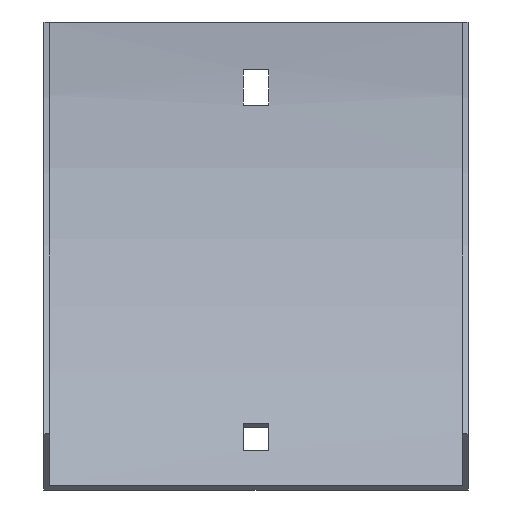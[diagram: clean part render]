
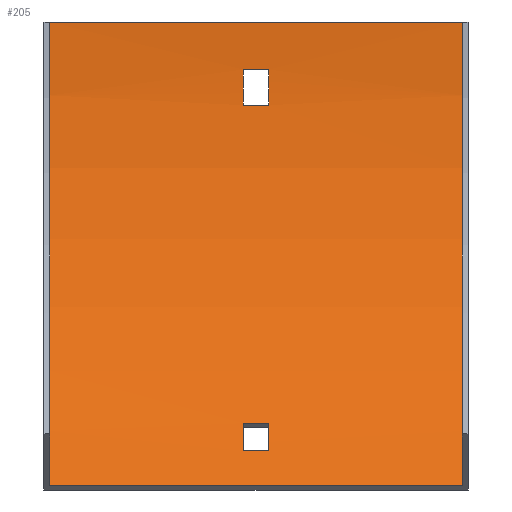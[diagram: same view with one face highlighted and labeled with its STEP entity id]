
A CAD part, front view. The second image highlights one B-rep face of the part: STEP entity #205.
In plain terms, the highlighted cylindrical face has radius 165.5 mm (diameter 331 mm), a partial arc.
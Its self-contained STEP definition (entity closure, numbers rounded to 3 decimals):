
#2 = CARTESIAN_POINT ( 'NONE',  ( 3.25, -1.936, -12. ) ) ;
#4 = DIRECTION ( 'NONE',  ( 0., 0., 1. ) ) ;
#6 = EDGE_CURVE ( 'NONE', #560, #449, #190, .T. ) ;
#12 = EDGE_CURVE ( 'NONE', #103, #221, #448, .T. ) ;
#16 = CARTESIAN_POINT ( 'NONE',  ( 52., -1.5, 0. ) ) ;
#20 = CARTESIAN_POINT ( 'NONE',  ( 53.5, -1.936, -12. ) ) ;
#22 = VERTEX_POINT ( 'NONE', #486 ) ;
#25 = EDGE_CURVE ( 'NONE', #47, #29, #301, .T. ) ;
#29 = VERTEX_POINT ( 'NONE', #400 ) ;
#34 = CARTESIAN_POINT ( 'NONE',  ( 53.5, -36.071, -101.231 ) ) ;
#44 = ORIENTED_EDGE ( 'NONE', *, *, #475, .T. ) ;
#47 = VERTEX_POINT ( 'NONE', #304 ) ;
#59 = CARTESIAN_POINT ( 'NONE',  ( -3.25, -2.838, -21. ) ) ;
#61 = ORIENTED_EDGE ( 'NONE', *, *, #25, .T. ) ;
#71 = LINE ( 'NONE', #498, #299 ) ;
#80 = CIRCLE ( 'NONE', #236, 165.5 ) ;
#95 = CYLINDRICAL_SURFACE ( 'NONE', #566, 165.5 ) ;
#96 = EDGE_CURVE ( 'NONE', #538, #421, #71, .T. ) ;
#103 = VERTEX_POINT ( 'NONE', #116 ) ;
#116 = CARTESIAN_POINT ( 'NONE',  ( 3.25, -36.071, -101.231 ) ) ;
#122 = EDGE_CURVE ( 'NONE', #131, #316, #296, .T. ) ;
#123 = DIRECTION ( 'NONE',  ( -1., 0., 0. ) ) ;
#124 = CARTESIAN_POINT ( 'NONE',  ( 3.25, -167., 0. ) ) ;
#128 = ORIENTED_EDGE ( 'NONE', *, *, #295, .T. ) ;
#131 = VERTEX_POINT ( 'NONE', #214 ) ;
#132 = FACE_OUTER_BOUND ( 'NONE', #480, .T. ) ;
#143 = DIRECTION ( 'NONE',  ( 0., 0., 1. ) ) ;
#151 = DIRECTION ( 'NONE',  ( 0., 0., -1. ) ) ;
#156 = VECTOR ( 'NONE', #161, 1000. ) ;
#161 = DIRECTION ( 'NONE',  ( 1., 0., 0. ) ) ;
#162 = DIRECTION ( 'NONE',  ( -1., 0., 0. ) ) ;
#164 = DIRECTION ( 'NONE',  ( -1., 0., 0. ) ) ;
#171 = ORIENTED_EDGE ( 'NONE', *, *, #96, .F. ) ;
#184 = CARTESIAN_POINT ( 'NONE',  ( 53.5, -167., 0. ) ) ;
#186 = ORIENTED_EDGE ( 'NONE', *, *, #12, .T. ) ;
#190 = CIRCLE ( 'NONE', #535, 165.5 ) ;
#204 = DIRECTION ( 'NONE',  ( -1., 0., 0. ) ) ;
#205 = ADVANCED_FACE ( 'NONE', ( #335, #132, #603 ), #95, .F. ) ;
#214 = CARTESIAN_POINT ( 'NONE',  ( 3.25, -2.838, -21. ) ) ;
#221 = VERTEX_POINT ( 'NONE', #429 ) ;
#227 = AXIS2_PLACEMENT_3D ( 'NONE', #482, #530, #298 ) ;
#236 = AXIS2_PLACEMENT_3D ( 'NONE', #571, #526, #151 ) ;
#242 = VECTOR ( 'NONE', #204, 1000. ) ;
#252 = CARTESIAN_POINT ( 'NONE',  ( -3.25, -167., 0. ) ) ;
#254 = LINE ( 'NONE', #20, #531 ) ;
#266 = DIRECTION ( 'NONE',  ( 0., 0., -1. ) ) ;
#267 = VECTOR ( 'NONE', #123, 1000. ) ;
#268 = EDGE_LOOP ( 'NONE', ( #416, #540, #453, #461 ) ) ;
#276 = AXIS2_PLACEMENT_3D ( 'NONE', #124, #309, #266 ) ;
#286 = AXIS2_PLACEMENT_3D ( 'NONE', #607, #336, #379 ) ;
#289 = DIRECTION ( 'NONE',  ( 1., 0., 0. ) ) ;
#295 = EDGE_CURVE ( 'NONE', #538, #47, #359, .T. ) ;
#296 = CIRCLE ( 'NONE', #276, 165.5 ) ;
#298 = DIRECTION ( 'NONE',  ( 0., 0., 1. ) ) ;
#299 = VECTOR ( 'NONE', #162, 1000. ) ;
#301 = LINE ( 'NONE', #16, #242 ) ;
#304 = CARTESIAN_POINT ( 'NONE',  ( 52., -1.5, 0. ) ) ;
#309 = DIRECTION ( 'NONE',  ( 1., 0., 0. ) ) ;
#310 = EDGE_LOOP ( 'NONE', ( #463, #44, #361, #186 ) ) ;
#316 = VERTEX_POINT ( 'NONE', #2 ) ;
#318 = EDGE_CURVE ( 'NONE', #421, #29, #523, .T. ) ;
#325 = VERTEX_POINT ( 'NONE', #426 ) ;
#335 = FACE_BOUND ( 'NONE', #268, .T. ) ;
#336 = DIRECTION ( 'NONE',  ( 1., 0., 0. ) ) ;
#340 = LINE ( 'NONE', #524, #602 ) ;
#346 = DIRECTION ( 'NONE',  ( 0., 0., 1. ) ) ;
#359 = CIRCLE ( 'NONE', #484, 165.5 ) ;
#361 = ORIENTED_EDGE ( 'NONE', *, *, #557, .T. ) ;
#379 = DIRECTION ( 'NONE',  ( 0., 0., 1. ) ) ;
#400 = CARTESIAN_POINT ( 'NONE',  ( -52., -1.5, 0. ) ) ;
#408 = ORIENTED_EDGE ( 'NONE', *, *, #318, .F. ) ;
#416 = ORIENTED_EDGE ( 'NONE', *, *, #6, .F. ) ;
#421 = VERTEX_POINT ( 'NONE', #529 ) ;
#426 = CARTESIAN_POINT ( 'NONE',  ( -3.25, -41.797, -108.233 ) ) ;
#429 = CARTESIAN_POINT ( 'NONE',  ( 3.25, -41.797, -108.233 ) ) ;
#446 = DIRECTION ( 'NONE',  ( -1., 0., 0. ) ) ;
#448 = CIRCLE ( 'NONE', #227, 165.5 ) ;
#449 = VERTEX_POINT ( 'NONE', #59 ) ;
#452 = EDGE_CURVE ( 'NONE', #449, #131, #340, .T. ) ;
#453 = ORIENTED_EDGE ( 'NONE', *, *, #122, .F. ) ;
#461 = ORIENTED_EDGE ( 'NONE', *, *, #452, .F. ) ;
#463 = ORIENTED_EDGE ( 'NONE', *, *, #593, .T. ) ;
#471 = DIRECTION ( 'NONE',  ( 1., 0., 0. ) ) ;
#475 = EDGE_CURVE ( 'NONE', #325, #22, #80, .T. ) ;
#476 = CARTESIAN_POINT ( 'NONE',  ( 52., -167., 0. ) ) ;
#480 = EDGE_LOOP ( 'NONE', ( #408, #171, #128, #61 ) ) ;
#482 = CARTESIAN_POINT ( 'NONE',  ( 3.25, -167., 0. ) ) ;
#484 = AXIS2_PLACEMENT_3D ( 'NONE', #476, #471, #143 ) ;
#486 = CARTESIAN_POINT ( 'NONE',  ( -3.25, -36.071, -101.231 ) ) ;
#498 = CARTESIAN_POINT ( 'NONE',  ( 52., -49.974, -117.026 ) ) ;
#520 = DIRECTION ( 'NONE',  ( -1., 0., 0. ) ) ;
#523 = CIRCLE ( 'NONE', #286, 165.5 ) ;
#524 = CARTESIAN_POINT ( 'NONE',  ( 53.5, -2.838, -21. ) ) ;
#526 = DIRECTION ( 'NONE',  ( 1., 0., 0. ) ) ;
#529 = CARTESIAN_POINT ( 'NONE',  ( -52., -49.974, -117.026 ) ) ;
#530 = DIRECTION ( 'NONE',  ( -1., 0., 0. ) ) ;
#531 = VECTOR ( 'NONE', #164, 1000. ) ;
#535 = AXIS2_PLACEMENT_3D ( 'NONE', #252, #446, #346 ) ;
#538 = VERTEX_POINT ( 'NONE', #598 ) ;
#540 = ORIENTED_EDGE ( 'NONE', *, *, #577, .F. ) ;
#548 = CARTESIAN_POINT ( 'NONE',  ( 53.5, -41.797, -108.233 ) ) ;
#553 = CARTESIAN_POINT ( 'NONE',  ( -3.25, -1.936, -12. ) ) ;
#557 = EDGE_CURVE ( 'NONE', #22, #103, #594, .T. ) ;
#560 = VERTEX_POINT ( 'NONE', #553 ) ;
#566 = AXIS2_PLACEMENT_3D ( 'NONE', #184, #520, #4 ) ;
#571 = CARTESIAN_POINT ( 'NONE',  ( -3.25, -167., 0. ) ) ;
#577 = EDGE_CURVE ( 'NONE', #316, #560, #254, .T. ) ;
#589 = LINE ( 'NONE', #548, #267 ) ;
#593 = EDGE_CURVE ( 'NONE', #221, #325, #589, .T. ) ;
#594 = LINE ( 'NONE', #34, #156 ) ;
#598 = CARTESIAN_POINT ( 'NONE',  ( 52., -49.974, -117.026 ) ) ;
#602 = VECTOR ( 'NONE', #289, 1000. ) ;
#603 = FACE_BOUND ( 'NONE', #310, .T. ) ;
#607 = CARTESIAN_POINT ( 'NONE',  ( -52., -167., 0. ) ) ;
